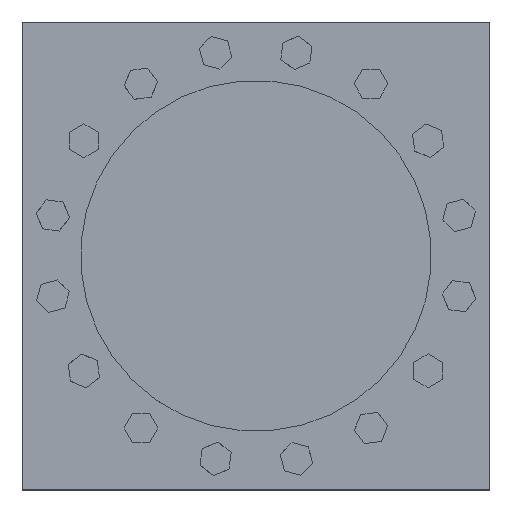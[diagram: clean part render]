
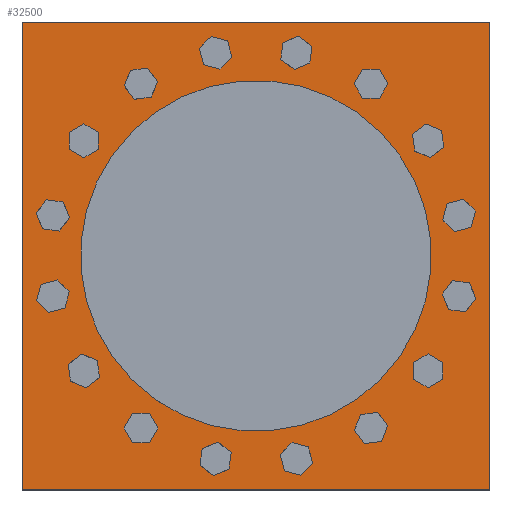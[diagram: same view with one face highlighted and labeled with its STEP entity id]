
A CAD part, top view. The second image highlights one B-rep face of the part: STEP entity #32500.
In plain terms, the highlighted planar face has unit normal (0, 0, 1).
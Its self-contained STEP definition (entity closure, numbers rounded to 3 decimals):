
#1460=LINE('',#49384,#2767);
#1464=LINE('',#49391,#2771);
#1467=LINE('',#49397,#2774);
#1469=LINE('',#49400,#2776);
#2767=VECTOR('',#39321,24.);
#2771=VECTOR('',#39327,24.);
#2774=VECTOR('',#39332,24.);
#2776=VECTOR('',#39336,24.);
#4076=PLANE('',#34887);
#4952=FACE_BOUND('',#8305,.T.);
#4953=FACE_BOUND('',#8306,.T.);
#4954=FACE_BOUND('',#8307,.T.);
#4955=FACE_BOUND('',#8308,.T.);
#4956=FACE_BOUND('',#8309,.T.);
#4957=FACE_BOUND('',#8310,.T.);
#4958=FACE_BOUND('',#8311,.T.);
#4959=FACE_BOUND('',#8312,.T.);
#4960=FACE_BOUND('',#8313,.T.);
#4961=FACE_BOUND('',#8314,.T.);
#4962=FACE_BOUND('',#8315,.T.);
#4963=FACE_BOUND('',#8316,.T.);
#4964=FACE_BOUND('',#8317,.T.);
#4965=FACE_BOUND('',#8318,.T.);
#4966=FACE_BOUND('',#8319,.T.);
#4967=FACE_BOUND('',#8320,.T.);
#6040=FACE_OUTER_BOUND('',#8304,.T.);
#8304=EDGE_LOOP('',(#20926,#20927,#20928,#20929));
#8305=EDGE_LOOP('',(#20930));
#8306=EDGE_LOOP('',(#20931));
#8307=EDGE_LOOP('',(#20932));
#8308=EDGE_LOOP('',(#20933));
#8309=EDGE_LOOP('',(#20934));
#8310=EDGE_LOOP('',(#20935));
#8311=EDGE_LOOP('',(#20936));
#8312=EDGE_LOOP('',(#20937));
#8313=EDGE_LOOP('',(#20938));
#8314=EDGE_LOOP('',(#20939));
#8315=EDGE_LOOP('',(#20940));
#8316=EDGE_LOOP('',(#20941));
#8317=EDGE_LOOP('',(#20942));
#8318=EDGE_LOOP('',(#20943));
#8319=EDGE_LOOP('',(#20944));
#8320=EDGE_LOOP('',(#20945));
#11600=CIRCLE('',#34836,0.563);
#11602=CIRCLE('',#34839,0.563);
#11604=CIRCLE('',#34842,0.563);
#11606=CIRCLE('',#34845,0.563);
#11608=CIRCLE('',#34848,0.563);
#11610=CIRCLE('',#34851,0.563);
#11612=CIRCLE('',#34854,0.563);
#11614=CIRCLE('',#34857,0.563);
#11616=CIRCLE('',#34860,0.563);
#11618=CIRCLE('',#34863,0.563);
#11620=CIRCLE('',#34866,0.563);
#11622=CIRCLE('',#34869,0.563);
#11624=CIRCLE('',#34872,0.563);
#11626=CIRCLE('',#34875,0.563);
#11628=CIRCLE('',#34878,0.563);
#11630=CIRCLE('',#34881,0.563);
#13736=VERTEX_POINT('',#49298);
#13738=VERTEX_POINT('',#49303);
#13740=VERTEX_POINT('',#49308);
#13742=VERTEX_POINT('',#49313);
#13744=VERTEX_POINT('',#49318);
#13746=VERTEX_POINT('',#49323);
#13748=VERTEX_POINT('',#49328);
#13750=VERTEX_POINT('',#49333);
#13752=VERTEX_POINT('',#49338);
#13754=VERTEX_POINT('',#49343);
#13756=VERTEX_POINT('',#49348);
#13758=VERTEX_POINT('',#49353);
#13760=VERTEX_POINT('',#49358);
#13762=VERTEX_POINT('',#49363);
#13764=VERTEX_POINT('',#49368);
#13766=VERTEX_POINT('',#49373);
#13770=VERTEX_POINT('',#49381);
#13771=VERTEX_POINT('',#49383);
#13773=VERTEX_POINT('',#49389);
#13775=VERTEX_POINT('',#49395);
#16662=EDGE_CURVE('',#13736,#13736,#11600,.T.);
#16664=EDGE_CURVE('',#13738,#13738,#11602,.T.);
#16666=EDGE_CURVE('',#13740,#13740,#11604,.T.);
#16668=EDGE_CURVE('',#13742,#13742,#11606,.T.);
#16670=EDGE_CURVE('',#13744,#13744,#11608,.T.);
#16672=EDGE_CURVE('',#13746,#13746,#11610,.T.);
#16674=EDGE_CURVE('',#13748,#13748,#11612,.T.);
#16676=EDGE_CURVE('',#13750,#13750,#11614,.T.);
#16678=EDGE_CURVE('',#13752,#13752,#11616,.T.);
#16680=EDGE_CURVE('',#13754,#13754,#11618,.T.);
#16682=EDGE_CURVE('',#13756,#13756,#11620,.T.);
#16684=EDGE_CURVE('',#13758,#13758,#11622,.T.);
#16686=EDGE_CURVE('',#13760,#13760,#11624,.T.);
#16688=EDGE_CURVE('',#13762,#13762,#11626,.T.);
#16690=EDGE_CURVE('',#13764,#13764,#11628,.T.);
#16692=EDGE_CURVE('',#13766,#13766,#11630,.T.);
#16696=EDGE_CURVE('',#13770,#13771,#1460,.T.);
#16700=EDGE_CURVE('',#13773,#13770,#1464,.T.);
#16703=EDGE_CURVE('',#13775,#13773,#1467,.T.);
#16705=EDGE_CURVE('',#13771,#13775,#1469,.T.);
#20926=ORIENTED_EDGE('',*,*,#16705,.F.);
#20927=ORIENTED_EDGE('',*,*,#16696,.F.);
#20928=ORIENTED_EDGE('',*,*,#16700,.F.);
#20929=ORIENTED_EDGE('',*,*,#16703,.F.);
#20930=ORIENTED_EDGE('',*,*,#16662,.T.);
#20931=ORIENTED_EDGE('',*,*,#16664,.T.);
#20932=ORIENTED_EDGE('',*,*,#16666,.T.);
#20933=ORIENTED_EDGE('',*,*,#16668,.T.);
#20934=ORIENTED_EDGE('',*,*,#16670,.T.);
#20935=ORIENTED_EDGE('',*,*,#16672,.T.);
#20936=ORIENTED_EDGE('',*,*,#16674,.T.);
#20937=ORIENTED_EDGE('',*,*,#16676,.T.);
#20938=ORIENTED_EDGE('',*,*,#16678,.T.);
#20939=ORIENTED_EDGE('',*,*,#16680,.T.);
#20940=ORIENTED_EDGE('',*,*,#16682,.T.);
#20941=ORIENTED_EDGE('',*,*,#16684,.T.);
#20942=ORIENTED_EDGE('',*,*,#16686,.T.);
#20943=ORIENTED_EDGE('',*,*,#16688,.T.);
#20944=ORIENTED_EDGE('',*,*,#16690,.T.);
#20945=ORIENTED_EDGE('',*,*,#16692,.T.);
#32500=ADVANCED_FACE('',(#6040,#4952,#4953,#4954,#4955,#4956,#4957,#4958,
#4959,#4960,#4961,#4962,#4963,#4964,#4965,#4966,#4967),#4076,.F.);
#34836=AXIS2_PLACEMENT_3D('',#49299,#39223,#39224);
#34839=AXIS2_PLACEMENT_3D('',#49304,#39229,#39230);
#34842=AXIS2_PLACEMENT_3D('',#49309,#39235,#39236);
#34845=AXIS2_PLACEMENT_3D('',#49314,#39241,#39242);
#34848=AXIS2_PLACEMENT_3D('',#49319,#39247,#39248);
#34851=AXIS2_PLACEMENT_3D('',#49324,#39253,#39254);
#34854=AXIS2_PLACEMENT_3D('',#49329,#39259,#39260);
#34857=AXIS2_PLACEMENT_3D('',#49334,#39265,#39266);
#34860=AXIS2_PLACEMENT_3D('',#49339,#39271,#39272);
#34863=AXIS2_PLACEMENT_3D('',#49344,#39277,#39278);
#34866=AXIS2_PLACEMENT_3D('',#49349,#39283,#39284);
#34869=AXIS2_PLACEMENT_3D('',#49354,#39289,#39290);
#34872=AXIS2_PLACEMENT_3D('',#49359,#39295,#39296);
#34875=AXIS2_PLACEMENT_3D('',#49364,#39301,#39302);
#34878=AXIS2_PLACEMENT_3D('',#49369,#39307,#39308);
#34881=AXIS2_PLACEMENT_3D('',#49374,#39313,#39314);
#34887=AXIS2_PLACEMENT_3D('',#49401,#39337,#39338);
#39223=DIRECTION('center_axis',(0.,0.,
-1.));
#39224=DIRECTION('ref_axis',(0.924,0.383,0.));
#39229=DIRECTION('center_axis',(0.,0.,
-1.));
#39230=DIRECTION('ref_axis',(0.707,0.707,0.));
#39235=DIRECTION('center_axis',(0.,0.,
-1.));
#39236=DIRECTION('ref_axis',(0.383,0.924,0.));
#39241=DIRECTION('center_axis',(0.,0.,
-1.));
#39242=DIRECTION('ref_axis',(0.,1.,0.));
#39247=DIRECTION('center_axis',(0.,0.,
-1.));
#39248=DIRECTION('ref_axis',(-0.383,0.924,0.));
#39253=DIRECTION('center_axis',(0.,0.,
-1.));
#39254=DIRECTION('ref_axis',(-0.707,0.707,0.));
#39259=DIRECTION('center_axis',(0.,0.,
-1.));
#39260=DIRECTION('ref_axis',(-0.924,0.383,0.));
#39265=DIRECTION('center_axis',(0.,0.,
-1.));
#39266=DIRECTION('ref_axis',(-1.,0.,0.));
#39271=DIRECTION('center_axis',(0.,0.,
-1.));
#39272=DIRECTION('ref_axis',(-0.924,-0.383,0.));
#39277=DIRECTION('center_axis',(0.,0.,
-1.));
#39278=DIRECTION('ref_axis',(-0.707,-0.707,0.));
#39283=DIRECTION('center_axis',(0.,0.,
-1.));
#39284=DIRECTION('ref_axis',(-0.383,-0.924,0.));
#39289=DIRECTION('center_axis',(0.,0.,
-1.));
#39290=DIRECTION('ref_axis',(0.,-1.,0.));
#39295=DIRECTION('center_axis',(0.,0.,
-1.));
#39296=DIRECTION('ref_axis',(0.383,-0.924,0.));
#39301=DIRECTION('center_axis',(0.,0.,
-1.));
#39302=DIRECTION('ref_axis',(0.707,-0.707,0.));
#39307=DIRECTION('center_axis',(0.,0.,
-1.));
#39308=DIRECTION('ref_axis',(0.924,-0.383,0.));
#39313=DIRECTION('center_axis',(0.,0.,
-1.));
#39314=DIRECTION('ref_axis',(1.,0.,0.));
#39321=DIRECTION('',(0.,1.,0.));
#39327=DIRECTION('',(-1.,0.,0.));
#39332=DIRECTION('',(0.,-1.,0.));
#39336=DIRECTION('',(1.,0.,0.));
#39337=DIRECTION('center_axis',(0.,0.,
-1.));
#39338=DIRECTION('ref_axis',(1.,0.,0.));
#49298=CARTESIAN_POINT('',(5.383,-9.05,9.5));
#49299=CARTESIAN_POINT('Origin',(5.903,-8.834,9.5));
#49303=CARTESIAN_POINT('',(8.437,-6.301,9.5));
#49304=CARTESIAN_POINT('Origin',(8.834,-5.903,9.5));
#49308=CARTESIAN_POINT('',(10.206,-2.593,9.5));
#49309=CARTESIAN_POINT('Origin',(10.421,-2.073,9.5));
#49313=CARTESIAN_POINT('',(10.421,1.51,9.5));
#49314=CARTESIAN_POINT('Origin',(10.421,2.073,9.5));
#49318=CARTESIAN_POINT('',(9.05,5.383,9.5));
#49319=CARTESIAN_POINT('Origin',(8.834,5.903,9.5));
#49323=CARTESIAN_POINT('',(6.301,8.437,9.5));
#49324=CARTESIAN_POINT('Origin',(5.903,8.834,9.5));
#49328=CARTESIAN_POINT('',(2.593,10.206,9.5));
#49329=CARTESIAN_POINT('Origin',(2.073,10.421,9.5));
#49333=CARTESIAN_POINT('',(-1.51,10.421,9.5));
#49334=CARTESIAN_POINT('Origin',(-2.073,10.421,9.5));
#49338=CARTESIAN_POINT('',(-5.383,9.05,9.5));
#49339=CARTESIAN_POINT('Origin',(-5.903,8.834,9.5));
#49343=CARTESIAN_POINT('',(-8.437,6.301,9.5));
#49344=CARTESIAN_POINT('Origin',(-8.834,5.903,9.5));
#49348=CARTESIAN_POINT('',(-10.206,2.593,9.5));
#49349=CARTESIAN_POINT('Origin',(-10.421,2.073,9.5));
#49353=CARTESIAN_POINT('',(-10.421,-1.51,9.5));
#49354=CARTESIAN_POINT('Origin',(-10.421,-2.073,9.5));
#49358=CARTESIAN_POINT('',(-9.05,-5.383,9.5));
#49359=CARTESIAN_POINT('Origin',(-8.834,-5.903,9.5));
#49363=CARTESIAN_POINT('',(-6.301,-8.437,9.5));
#49364=CARTESIAN_POINT('Origin',(-5.903,-8.834,9.5));
#49368=CARTESIAN_POINT('',(-2.593,-10.206,9.5));
#49369=CARTESIAN_POINT('Origin',(-2.073,-10.421,9.5));
#49373=CARTESIAN_POINT('',(1.51,-10.421,9.5));
#49374=CARTESIAN_POINT('Origin',(2.073,-10.421,9.5));
#49381=CARTESIAN_POINT('',(-12.,-12.,9.5));
#49383=CARTESIAN_POINT('',(-12.,12.,9.5));
#49384=CARTESIAN_POINT('',(-12.,-12.,9.5));
#49389=CARTESIAN_POINT('',(12.,-12.,9.5));
#49391=CARTESIAN_POINT('',(12.,-12.,9.5));
#49395=CARTESIAN_POINT('',(12.,12.,9.5));
#49397=CARTESIAN_POINT('',(12.,12.,9.5));
#49400=CARTESIAN_POINT('',(-12.,12.,9.5));
#49401=CARTESIAN_POINT('Origin',(0.,0.,
9.5));
